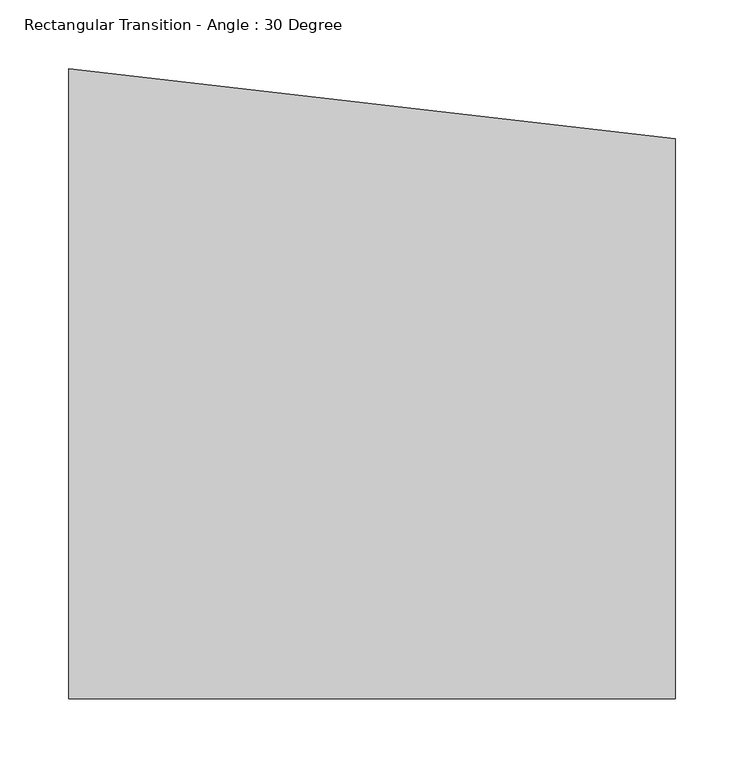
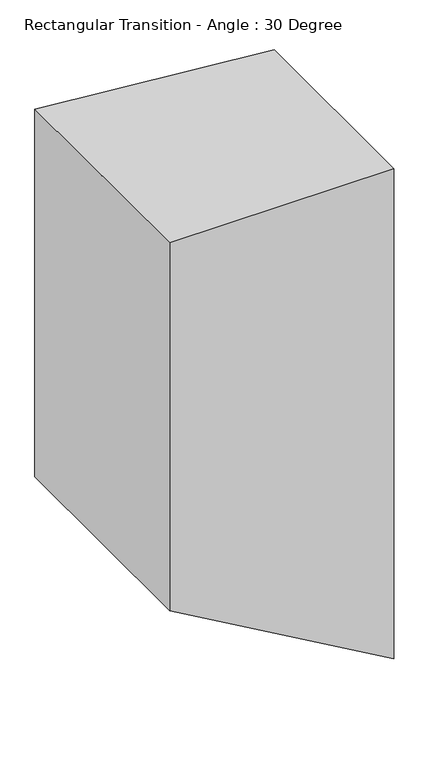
"""IFC4 building model written with IfcOpenShell, lengths in millimetres: duct fitting geometry, Rectangular Transition - Angle : 30 Degree."""

import ifcopenshell
import ifcopenshell.guid

model = None  # the IFC model being written
_history = None  # IfcOwnerHistory: only IFC2X3 demands one
_inside = {}  # id of a spatial element -> (the spatial element, [elements in it])
_under = {}  # id of a project, library or spatial element -> (it, [spatial elements below it])
_declared = {}  # id of a project -> (the project, [libraries it declares])
_typed = {}  # id of a type object -> (the type object, [elements of that type])
_made_of = {}  # id of a material, layer set ... -> (it, [elements and type objects made of it])


def new_model(schema):
    """Start an empty IFC model of exactly this schema.

    Asked for "IFC4X3", IfcOpenShell would pick the latest addendum, in which some entities
    have other attributes; the version numbers below select the first issue.
    IFC2X3 requires an IfcOwnerHistory on every rooted entity: one is made here for all.
    """
    global model, _history
    if schema == "IFC4X3":
        model = ifcopenshell.file(schema_version=(4, 3, 0, 0))
    else:
        model = ifcopenshell.file(schema=schema)
    _inside.clear()
    _under.clear()
    _declared.clear()
    _typed.clear()
    _made_of.clear()
    _history = None
    if model.schema == "IFC2X3":
        org = make("IfcOrganization", Name="unknown")
        user = make(
            "IfcPersonAndOrganization",
            ThePerson=make("IfcPerson", FamilyName="unknown"),
            TheOrganization=org,
        )
        app = make(
            "IfcApplication",
            ApplicationDeveloper=org,
            Version="unknown",
            ApplicationFullName="unknown",
            ApplicationIdentifier="unknown",
        )
        _history = make(
            "IfcOwnerHistory",
            OwningUser=user,
            OwningApplication=app,
            ChangeAction="ADDED",
            CreationDate=0,
        )
    return model


def make(cls, **values):
    """One entity of the class cls with the attributes given. An attribute that is None is left unset."""
    return model.create_entity(
        cls, **{name: value for name, value in values.items() if value is not None}
    )


def rooted(cls, **values):
    """An entity with a GlobalId (a new one), such as an element, a storey or a relation."""
    return make(cls, GlobalId=ifcopenshell.guid.new(), OwnerHistory=_history, **values)


def si_unit(unit_type, name, prefix=None):
    """IfcSIUnit, for example si_unit("LENGTHUNIT", "METRE", prefix="MILLI")."""
    return make("IfcSIUnit", UnitType=unit_type, Prefix=prefix, Name=name)


def assignment(units):
    """IfcUnitAssignment: the units of a project."""
    return None if units is None else make("IfcUnitAssignment", Units=units)


def point(xyz):
    """IfcCartesianPoint."""
    return None if xyz is None else make("IfcCartesianPoint", Coordinates=xyz)


def direction(xyz):
    """IfcDirection."""
    return None if xyz is None else make("IfcDirection", DirectionRatios=xyz)


def frame(location, z_axis=None, x_axis=None):
    """IfcAxis2Placement3D, a coordinate frame: its origin and axes. An axis left out is left unset."""
    return make(
        "IfcAxis2Placement3D",
        Location=point(location),
        Axis=direction(z_axis),
        RefDirection=direction(x_axis),
    )


def origin():
    """The frame at (0, 0, 0) with its axes left unset."""
    return frame((0.0, 0.0, 0.0))


def place(relative_to, where):
    """IfcLocalPlacement: puts the frame where relative to a parent placement (None: the world)."""
    return make(
        "IfcLocalPlacement", PlacementRelTo=relative_to, RelativePlacement=where
    )


def context(
    kind, dimensions, precision=None, world=None, true_north=None, identifier=None
):
    """IfcGeometricRepresentationContext, for example the 3D "Model" context."""
    return make(
        "IfcGeometricRepresentationContext",
        ContextIdentifier=identifier,
        ContextType=kind,
        CoordinateSpaceDimension=dimensions,
        Precision=precision,
        WorldCoordinateSystem=world,
        TrueNorth=true_north,
    )


def project(units=None, contexts=None):
    """IfcProject with its units and contexts."""
    return rooted(
        "IfcProject",
        Name="project",
        RepresentationContexts=contexts,
        UnitsInContext=assignment(units),
    )


def spatial(cls, under=None, at=None, **own):
    """A site, building, storey or space (cls), placed at a placement, below another one or the project."""
    s = rooted(cls, ObjectPlacement=at, **own)
    if under is not None:
        _under.setdefault(under.id(), (under, []))[1].append(s)
    return s


def faces_of(points, faces, orient=None, outer=None):
    """IfcFace entities. A face is a list of loops; a loop is a list of indices into points, from 0.

    orient and outer hold one flag for each loop. By default every Orientation is true, the
    first loop of a face is its IfcFaceOuterBound and the others are IfcFaceBound.
    """
    made = []
    for i, loops in enumerate(faces):
        bounds = []
        for j, loop in enumerate(loops):
            is_outer = j == 0 if outer is None else outer[i][j]
            bounds.append(
                make(
                    "IfcFaceOuterBound" if is_outer else "IfcFaceBound",
                    Bound=make("IfcPolyLoop", Polygon=[points[k] for k in loop]),
                    Orientation=True if orient is None else orient[i][j],
                )
            )
        made.append(make("IfcFace", Bounds=bounds))
    return made


def faceted_brep(points, faces, orient=None, outer=None, voids=None):
    """IfcFacetedBrep: a solid bounded by flat faces; with voids (closed shells), ...WithVoids."""
    shared = [point(p) for p in points]
    hull = make("IfcClosedShell", CfsFaces=faces_of(shared, faces, orient, outer))
    if voids is None:
        return make("IfcFacetedBrep", Outer=hull)
    return make(
        "IfcFacetedBrepWithVoids",
        Outer=hull,
        Voids=[
            make(cls, CfsFaces=faces_of(shared, fs, o, b)) for cls, fs, o, b in voids
        ],
    )


def shape(context_of_items, identifier, shape_type, items):
    """IfcShapeRepresentation: the items that make up one representation, for example the "Body"."""
    return make(
        "IfcShapeRepresentation",
        ContextOfItems=context_of_items,
        RepresentationIdentifier=identifier,
        RepresentationType=shape_type,
        Items=items,
    )


def source(mapping_origin, context_of_items, identifier, shape_type, items):
    """IfcRepresentationMap: a shape defined once, which mapped items show again and again."""
    return make(
        "IfcRepresentationMap",
        MappingOrigin=mapping_origin,
        MappedRepresentation=shape(context_of_items, identifier, shape_type, items),
    )


def transform(
    local_origin,
    x_axis=None,
    y_axis=None,
    z_axis=None,
    scale=None,
    scale2=None,
    scale3=None,
    uniform=True,
):
    """IfcCartesianTransformationOperator3D, or its non-uniform kind. x_axis, y_axis, z_axis: its Axis1, 2, 3."""
    if uniform:
        return make(
            "IfcCartesianTransformationOperator3D",
            Axis1=direction(x_axis),
            Axis2=direction(y_axis),
            LocalOrigin=point(local_origin),
            Scale=scale,
            Axis3=direction(z_axis),
        )
    return make(
        "IfcCartesianTransformationOperator3DnonUniform",
        Axis1=direction(x_axis),
        Axis2=direction(y_axis),
        LocalOrigin=point(local_origin),
        Scale=scale,
        Axis3=direction(z_axis),
        Scale2=scale2,
        Scale3=scale3,
    )


def mapped(mapping_source, mapping_target):
    """IfcMappedItem: shows the shape of a source again, moved by a transform."""
    return make(
        "IfcMappedItem", MappingSource=mapping_source, MappingTarget=mapping_target
    )


def made_of(thing, what):
    """Note that an element or type object is made of a material, layer set ...; save() writes the relation."""
    if what is not None:
        _made_of.setdefault(what.id(), (what, []))[1].append(thing)
    return thing


def element(
    cls,
    number,
    at=None,
    inside=None,
    cuts=None,
    type_object=None,
    material=None,
    context=None,
    identifier="Body",
    shape_type=None,
    held_by="IfcProductDefinitionShape",
    body=None,
    shapes=None,
    **own,
):
    """One element of the class cls, such as IfcWall. Its Tag is "e" and its number.

    at: its placement. inside: the storey or other place that contains it. cuts: it is an
    opening in that element (IfcRelVoidsElement). A single representation is given by context,
    identifier, shape_type and body (its items); several are given by shapes. held_by: the class
    of the entity that holds the representations. save() writes the other relations.
    """
    e = rooted(cls, Tag="e%d" % number, ObjectPlacement=at, **own)
    if body is not None:
        shapes = [shape(context, identifier, shape_type, body)]
    if shapes is not None:
        e.Representation = make(held_by, Representations=shapes)
    if inside is not None:
        _inside.setdefault(inside.id(), (inside, []))[1].append(e)
    if cuts is not None:
        rooted(
            "IfcRelVoidsElement", RelatingBuildingElement=cuts, RelatedOpeningElement=e
        )
    if type_object is not None:
        _typed.setdefault(type_object.id(), (type_object, []))[1].append(e)
    return made_of(e, material)


def aggregate(whole, parts):
    """IfcRelAggregates: a whole, such as a stair, and the parts it consists of."""
    return rooted("IfcRelAggregates", RelatingObject=whole, RelatedObjects=parts)


def save(model, path):
    """Write the relations noted so far, then the file.

    IfcRelAggregates (storeys below a building ...), IfcRelContainedInSpatialStructure (elements
    in a storey), IfcRelDefinesByType, IfcRelAssociatesMaterial and IfcRelDeclares: one each for
    every whole, place, type object, material and project.
    """
    for whole, parts in _under.values():
        aggregate(whole, parts)
    for where, things in _inside.values():
        rooted(
            "IfcRelContainedInSpatialStructure",
            RelatedElements=things,
            RelatingStructure=where,
        )
    for kind, things in _typed.values():
        rooted("IfcRelDefinesByType", RelatedObjects=things, RelatingType=kind)
    for what, things in _made_of.values():
        rooted("IfcRelAssociatesMaterial", RelatedObjects=things, RelatingMaterial=what)
    for by, libraries in _declared.values():
        rooted("IfcRelDeclares", RelatingContext=by, RelatedDefinitions=libraries)
    model.write(path)


def rectangular_transition_angle_30_degree_7548fecf(model_context):
    return source(origin(), model_context, "Body", "Brep", [
        faceted_brep([(439.9179868, 177.8, 380.9603125), (439.9179868, -228.6, 380.9603125), (439.9179868, -228.6, -635.0396875), (439.9179868, 177.8, -635.0396875), (0.0, 228.6, 381.0), (0.0, 228.6, -381.0), (0.0, -228.6, -381.0), (0.0, -228.6, 381.0)], [[[0, 1, 2, 3]], [[4, 5, 6, 7]], [[4, 0, 3, 5]], [[5, 3, 2, 6]], [[6, 2, 1, 7]], [[7, 1, 0, 4]]]),
    ])


if __name__ == "__main__":
    model = new_model("IFC4")
    model_context = context("Model", 3, world=origin())
    ifc_project = project(units=[si_unit("LENGTHUNIT", "METRE", prefix="MILLI")], contexts=[model_context])
    site = spatial("IfcSite", under=ifc_project)
    building = spatial("IfcBuilding", under=site)
    placement = place(None, origin())
    rectangular_transition_angle_30_degree_shape = rectangular_transition_angle_30_degree_7548fecf(model_context)
    element("IfcDuctFitting", 1, ObjectType="Rectangular Transition - Angle : 30 Degree", at=placement, inside=building, context=model_context, shape_type="MappedRepresentation", body=[
        mapped(rectangular_transition_angle_30_degree_shape, transform((0.0, 0.0, 0.0), x_axis=(1.0, 0.0, 0.0), y_axis=(0.0, 1.0, 0.0), z_axis=(0.0, 0.0, 1.0))),
    ])
    save(model, "model.ifc")
